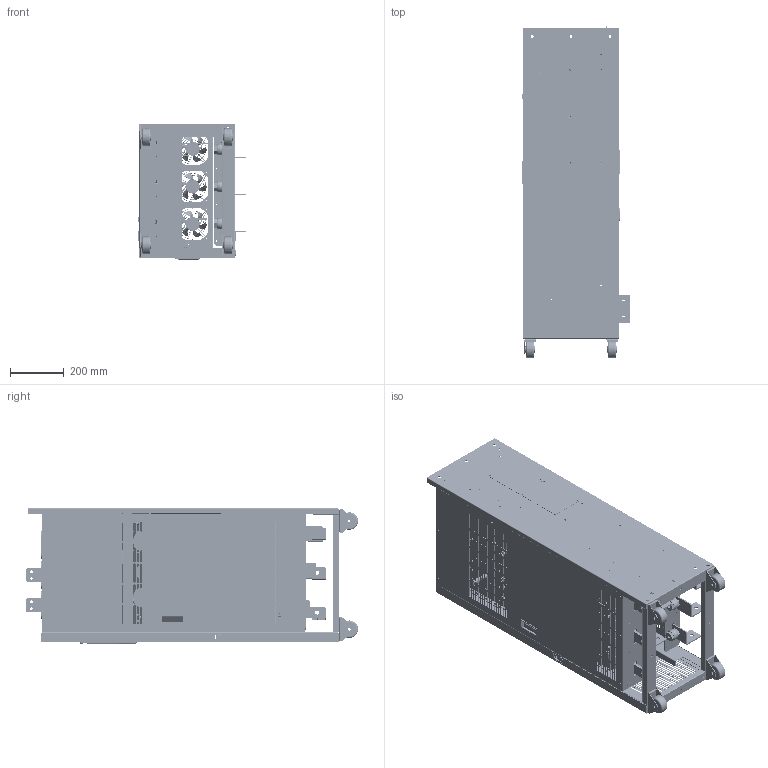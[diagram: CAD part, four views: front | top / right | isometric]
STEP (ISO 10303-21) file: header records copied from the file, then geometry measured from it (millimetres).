
FILE_DESCRIPTION(('STEP AP203'), '1');
FILE_NAME('F9', '', ('UNSPECIFIED'), ('UNSPECIFIED'), 'C3D Converter', 'C3D Toolkit', '');
FILE_SCHEMA(('CONFIG_CONTROL_DESIGN'));
Length unit declared in the file: millimetre
Products named in the file (1): INPRIME-G200-4F
Bounding box: 404.49 x 1237 x 507.5 mm (x, y, z)
Volume: 101619.8 mm3; surface area: 6893759.4 mm2
Topology: 13 solids, 309 shells, 3369 faces, 14866 edges, 11350 vertices
Faces by surface type: plane 1882, cylinder 1287, bspline 87, torus 82, cone 31
Full cylindrical faces by diameter (mm): 1.5 x11, 4 x18, 4.5 x17, 4.6 x6, 5 x35, 5.5 x3, 6 x20, 6.5 x6, 7.2 x39, 7.9 x3, 8 x13, 8.5 x7, 8.75 x2, 8.9 x1, 10 x22, 11 x7, 11.1 x7, 11.2 x1, 12 x14, 12.7 x6, 15 x11, 17 x4, 26.5 x8, 30 x3, 40 x6, 65 x4, 72 x2
Entity records: 199888 total; most frequent: CARTESIAN_POINT 49142, DIRECTION 24579, ORIENTED_EDGE 21361, EDGE_CURVE 14497, VERTEX_POINT 11390, LINE 8817, VECTOR 8817, AXIS2_PLACEMENT_3D 7881
